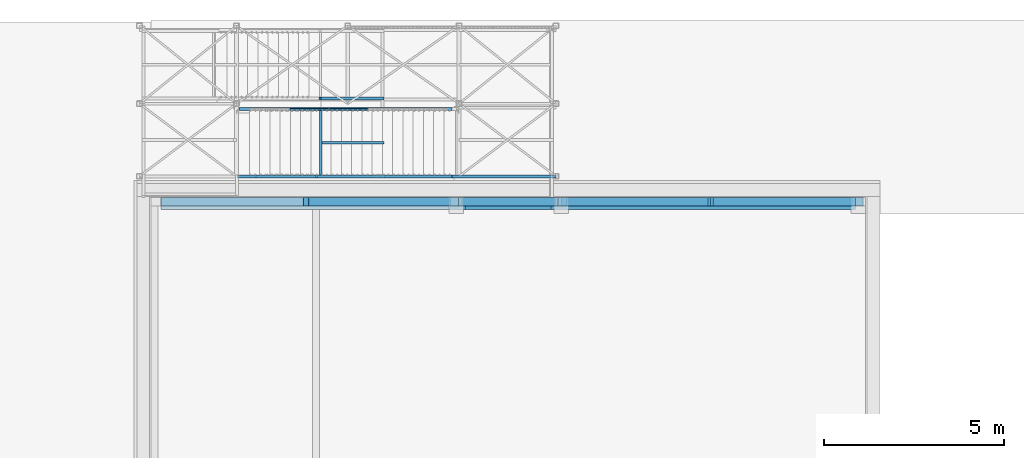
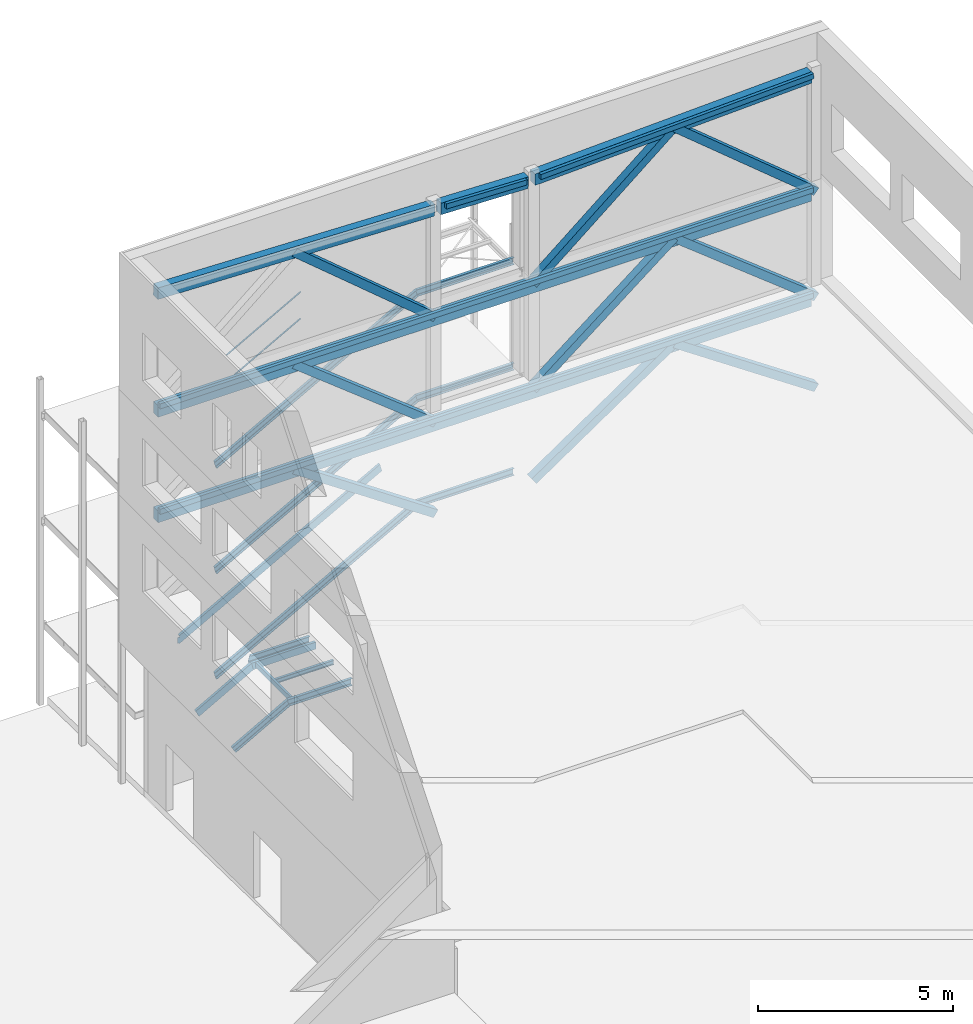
# One storey, part 31 of 78: 17 beams, 17 members, 28 elements without a shape of their own.
"""IFC2X3 building model written with IfcOpenShell, lengths in millimetres."""

from ifc_helpers import new_model, si_unit, frame, origin_with_axes, origin_2d_with_axis, place, context, subcontext, project, spatial, polyline, rectangle, i_section, u_section, outline, extrude, boolean, clip, halfspace, material, type_object, element, aggregate, save


model = new_model("IFC2X3")

# Units and contexts
model_context = context("Model", 3, precision=1e-05, world=origin_with_axes())
body_context = subcontext(model_context, "Body", "Model", "MODEL_VIEW")
ifc_project = project(units=[si_unit("LENGTHUNIT", "METRE", prefix="MILLI"), si_unit("AREAUNIT", "SQUARE_METRE"), si_unit("VOLUMEUNIT", "CUBIC_METRE"), si_unit("MASSUNIT", "GRAM", prefix="KILO"), si_unit("TIMEUNIT", "SECOND"), si_unit("PLANEANGLEUNIT", "RADIAN"), si_unit("SOLIDANGLEUNIT", "STERADIAN"), si_unit("THERMODYNAMICTEMPERATUREUNIT", "DEGREE_CELSIUS"), si_unit("LUMINOUSINTENSITYUNIT", "LUMEN")], contexts=[model_context])

# Site, building, storey
site_placement = place(None, origin_with_axes())
site = spatial("IfcSite", under=ifc_project, at=site_placement, Name="Site", CompositionType="ELEMENT")
building_placement = place(site_placement, origin_with_axes())
building = spatial("IfcBuilding", under=site, at=building_placement, Name="Undefined", CompositionType="ELEMENT")
storey_placement = place(building_placement, origin_with_axes())
storey = spatial("IfcBuildingStorey", under=building, at=storey_placement, Name="Undefined", CompositionType="ELEMENT", Elevation=0.0)

# Assembly, beam
assembly_1_placement = place(storey_placement, origin_with_axes())
assembly_1 = element("IfcElementAssembly", 1, at=assembly_1_placement, inside=storey, AssemblyPlace="NOTDEFINED", PredefinedType="RIGID_FRAME")
ifc_material_1 = material(Name="STEEL/S235JR")
beam_type_1 = type_object("IfcBeamType", Name="UPN220", PredefinedType="NOTDEFINED")
beam_1_placement = place(assembly_1_placement, frame((-2342.82498432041, 30893.0000000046, 148365.039999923), z_axis=(0.0, 0.0, 1.0), x_axis=(1.0, 0.0, 0.0)))
beam_1 = element("IfcBeam", 2, at=beam_1_placement, type_object=beam_type_1, material=ifc_material_1, Name="LIMON", ObjectType="UPN220", context=body_context, shape_type="Clipping", body=[
    clip(extrude(u_section(Depth=220.0, FlangeWidth=80.0, WebThickness=9.0, FlangeThickness=12.5, FilletRadius=12.5, EdgeRadius=6.5, FlangeSlope=0.0798299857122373, at=origin_2d_with_axis()), frame((1746.39498432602, 0.0, 0.0), z_axis=(-1.0, 0.0, 0.0), x_axis=(0.0, -1.0, 0.0)), (0.0, 0.0, 1.0), 1804.06), halfspace(frame((-5.94641824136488e-06, 2.39502696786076e-07, 109.999999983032), z_axis=(0.967635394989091, 0.0, -0.252352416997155), x_axis=(0.0, 1.0, 0.0)), True)),
])
aggregate(assembly_1, [beam_1])

assembly_2_placement = place(storey_placement, origin_with_axes())
assembly_2 = element("IfcElementAssembly", 3, at=assembly_2_placement, inside=storey, AssemblyPlace="NOTDEFINED", PredefinedType="RIGID_FRAME")
beam_2_placement = place(assembly_2_placement, frame((-596.429999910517, 30602.9999999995, 148365.040000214), z_axis=(0.0, 0.0, 1.0), x_axis=(-1.0, 0.0, 0.0)))
beam_2 = element("IfcBeam", 4, at=beam_2_placement, type_object=beam_type_1, material=ifc_material_1, Name="LIMON", ObjectType="UPN220", context=body_context, shape_type="Clipping", body=[
    clip(extrude(u_section(Depth=220.0, FlangeWidth=80.0, WebThickness=9.0, FlangeThickness=12.5, FilletRadius=12.5, EdgeRadius=6.5, FlangeSlope=0.0798299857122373, at=origin_2d_with_axis()), frame((1903.8918874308, 0.0, 0.0), z_axis=(-1.0, 0.0, 0.0), x_axis=(0.0, -1.0, 0.0)), (0.0, 0.0, 1.0), 1903.89), halfspace(frame((1903.60501531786, -40.000000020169, 110.000000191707), z_axis=(-0.967635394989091, 0.0, 0.252352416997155), x_axis=(0.0, -1.0, 0.0)), True)),
])

assembly_3_placement = place(storey_placement, origin_with_axes())
assembly_3 = element("IfcElementAssembly", 5, at=assembly_3_placement, inside=storey, AssemblyPlace="NOTDEFINED", PredefinedType="RIGID_FRAME")
beam_3_placement = place(assembly_3_placement, frame((-2500.03501564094, 28722.9999999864, 148365.040000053), z_axis=(0.0, 0.0, 1.0), x_axis=(1.0, 0.0, 0.0)))
beam_3 = element("IfcBeam", 6, at=beam_3_placement, type_object=beam_type_1, material=ifc_material_1, Name="LIMON", ObjectType="UPN220", context=body_context, shape_type="Clipping", body=[
    clip(extrude(u_section(Depth=220.0, FlangeWidth=80.0, WebThickness=9.0, FlangeThickness=12.5, FilletRadius=12.5, EdgeRadius=6.5, FlangeSlope=0.0798299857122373, at=origin_2d_with_axis()), frame((1903.60501567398, 0.0, 0.0), z_axis=(-1.0, 0.0, 0.0), x_axis=(0.0, -1.0, 0.0)), (0.0, 0.0, 1.0), 1903.89), halfspace(frame((-1.64160519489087e-06, -39.9999999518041, 109.99999989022), z_axis=(-0.967635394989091, 0.0, -0.252352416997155), x_axis=(0.0, -1.0, 0.0)), False)),
])

assembly_4_placement = place(storey_placement, origin_with_axes())
assembly_4 = element("IfcElementAssembly", 7, at=assembly_4_placement, inside=storey, AssemblyPlace="NOTDEFINED", PredefinedType="RIGID_FRAME")
beam_4_placement = place(assembly_4_placement, frame((1304.28428553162, 28722.9999999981, 153260.039999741), z_axis=(0.0, 0.0, 1.0), x_axis=(1.0, 0.0, 0.0)))
beam_4 = element("IfcBeam", 8, at=beam_4_placement, type_object=beam_type_1, material=ifc_material_1, Name="LIMON", ObjectType="UPN220", context=body_context, shape_type="Clipping", body=[
    clip(extrude(u_section(Depth=220.0, FlangeWidth=80.0, WebThickness=9.0, FlangeThickness=12.5, FilletRadius=12.5, EdgeRadius=6.5, FlangeSlope=0.0798299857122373, at=origin_2d_with_axis()), frame((2894.28571431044, 0.0, 0.0), z_axis=(-1.0, 0.0, 0.0), x_axis=(0.0, -1.0, 0.0)), (0.0, 0.0, 1.0), 2894.57), halfspace(frame((-1.64160519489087e-06, -39.9999999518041, 109.99999989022), z_axis=(-0.968308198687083, 0.0, -0.249758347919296), x_axis=(0.0, -1.0, 0.0)), False)),
])

assembly_5_placement = place(storey_placement, origin_with_axes())
assembly_5 = element("IfcElementAssembly", 9, at=assembly_5_placement, inside=storey, AssemblyPlace="NOTDEFINED", PredefinedType="RIGID_FRAME")
beam_5_placement = place(assembly_5_placement, frame((1304.28428542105, 28722.999999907, 156560.03999956), z_axis=(0.0, 0.0, 1.0), x_axis=(1.0, 0.0, 0.0)))
beam_5 = element("IfcBeam", 10, at=beam_5_placement, type_object=beam_type_1, material=ifc_material_1, Name="LIMON", ObjectType="UPN220", context=body_context, shape_type="Clipping", body=[
    clip(extrude(u_section(Depth=220.0, FlangeWidth=80.0, WebThickness=9.0, FlangeThickness=12.5, FilletRadius=12.5, EdgeRadius=6.5, FlangeSlope=0.0798299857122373, at=origin_2d_with_axis()), frame((2894.28571431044, 0.0, 0.0), z_axis=(-1.0, 0.0, 0.0), x_axis=(0.0, -1.0, 0.0)), (0.0, 0.0, 1.0), 2894.57), halfspace(frame((-1.64160519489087e-06, -39.9999999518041, 109.99999989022), z_axis=(-0.968308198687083, 0.0, -0.249758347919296), x_axis=(0.0, -1.0, 0.0)), False)),
])

assembly_6_placement = place(storey_placement, origin_with_axes())
assembly_6 = element("IfcElementAssembly", 11, at=assembly_6_placement, inside=storey, AssemblyPlace="NOTDEFINED", PredefinedType="RIGID_FRAME")
beam_6_placement = place(assembly_6_placement, frame((1304.28428553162, 28722.9999999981, 159860.039999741), z_axis=(0.0, 0.0, 1.0), x_axis=(1.0, 0.0, 0.0)))
beam_6 = element("IfcBeam", 12, at=beam_6_placement, type_object=beam_type_1, material=ifc_material_1, Name="LIMON", ObjectType="UPN220", context=body_context, shape_type="Clipping", body=[
    clip(extrude(u_section(Depth=220.0, FlangeWidth=80.0, WebThickness=9.0, FlangeThickness=12.5, FilletRadius=12.5, EdgeRadius=6.5, FlangeSlope=0.0798299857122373, at=origin_2d_with_axis()), frame((2894.28571431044, 0.0, 0.0), z_axis=(-1.0, 0.0, 0.0), x_axis=(0.0, -1.0, 0.0)), (0.0, 0.0, 1.0), 2894.57), halfspace(frame((-1.64160519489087e-06, -39.9999999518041, 109.99999989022), z_axis=(-0.968308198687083, 0.0, -0.249758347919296), x_axis=(0.0, -1.0, 0.0)), False)),
])

assembly_7_placement = place(storey_placement, origin_with_axes())
assembly_7 = element("IfcElementAssembly", 13, at=assembly_7_placement, inside=storey, Name="POUTRE", AssemblyPlace="NOTDEFINED", PredefinedType="RIGID_FRAME")
ifc_material_2 = material(Name="STEEL/S275JR")
beam_type_2 = type_object("IfcBeamType", Name="IPE140", PredefinedType="NOTDEFINED")
beam_7_placement = place(assembly_7_placement, frame((-2336.4299998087, 29663.0, 148405.039999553), z_axis=(0.0, 0.0, -1.0), x_axis=(1.0, 0.0, 0.0)))
beam_7 = element("IfcBeam", 14, at=beam_7_placement, type_object=beam_type_2, material=ifc_material_2, Name="POUTRE", ObjectType="IPE140", context=body_context, shape_type="SweptSolid", body=[
    extrude(i_section(OverallWidth=73.0, OverallDepth=140.0, WebThickness=4.699999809, FlangeThickness=6.900000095, FilletRadius=7.0, at=origin_2d_with_axis()), frame((1739.9999999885, 0.0, 0.0), z_axis=(-1.0, 0.0, 0.0), x_axis=(0.0, -1.0, 0.0)), (0.0, 0.0, 1.0), 1740.0),
])
aggregate(assembly_7, [beam_7])

# Assembly, members
assembly_8_placement = place(storey_placement, origin_with_axes())
assembly_8 = element("IfcElementAssembly", 15, at=assembly_8_placement, inside=storey, Name="MAIN_COURANTE", AssemblyPlace="NOTDEFINED", PredefinedType="RIGID_FRAME")
member_type_1 = type_object("IfcMemberType", Name="PL10*50", PredefinedType="NOTDEFINED")
member_1_placement = place(assembly_8_placement, frame((-3227.0057155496, 30592.9999997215, 157528.743340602), z_axis=(0.0, -1.0, 0.0), x_axis=(0.875241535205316, 0.0, 0.483686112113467)))
solid_1 = boolean("DIFFERENCE", boolean("DIFFERENCE", extrude(rectangle(XDim=20.0, YDim=50.0, at=origin_2d_with_axis()), frame((404.923975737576, 732.719574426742, -3.63797880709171e-12), z_axis=(-0.483686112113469, -0.875241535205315, 0.0), x_axis=(0.875241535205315, -0.48368611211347, 0.0)), (0.0, 0.0, 1.0), 900.0), halfspace(frame((402.160818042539, 722.719574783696, -3.63797880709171e-12), z_axis=(0.0, 1.0, 0.0), x_axis=(0.0, 0.0, -1.0)), False)), halfspace(frame((-25.9724726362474, -46.997807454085, -25.0000000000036), z_axis=(0.0, 1.0, 0.0), x_axis=(1.0, 0.0, 0.0)), True))
solid_2 = boolean("DIFFERENCE", boolean("DIFFERENCE", extrude(rectangle(XDim=20.0, YDim=50.0, at=origin_2d_with_axis()), frame((1661.71990663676, 732.719574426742, -3.63797880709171e-12), z_axis=(-0.483686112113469, -0.875241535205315, 0.0), x_axis=(0.875241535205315, -0.48368611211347, 0.0)), (0.0, 0.0, 1.0), 900.0), halfspace(frame((1658.95674886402, 722.719574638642, -3.63797880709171e-12), z_axis=(0.0, 1.0, 0.0), x_axis=(0.0, 0.0, -1.0)), False)), halfspace(frame((1230.8234582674, -46.997807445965, -25.0000000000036), z_axis=(0.0, 1.0, 0.0), x_axis=(1.0, 0.0, 0.0)), True))
solid_3 = boolean("DIFFERENCE", boolean("DIFFERENCE", extrude(rectangle(XDim=20.0, YDim=50.0, at=origin_2d_with_axis()), frame((2918.51583753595, 732.719574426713, -3.63797880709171e-12), z_axis=(-0.483686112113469, -0.875241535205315, 0.0), x_axis=(0.875241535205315, -0.48368611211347, 0.0)), (0.0, 0.0, 1.0), 900.0), halfspace(frame((2915.75267970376, 722.719574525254, -3.63797880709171e-12), z_axis=(0.0, 1.0, 0.0), x_axis=(0.0, 0.0, -1.0)), False)), halfspace(frame((2487.61938917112, -46.9978074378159, -25.0000000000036), z_axis=(0.0, 1.0, 0.0), x_axis=(1.0, 0.0, 0.0)), True))
member_1 = element("IfcMember", 16, at=member_1_placement, type_object=member_type_1, material=ifc_material_1, Name="LISSE", ObjectType="PL10*50", context=body_context, shape_type="CSG", body=[
    boolean("DIFFERENCE", boolean("DIFFERENCE", boolean("DIFFERENCE", extrude(rectangle(XDim=10.0, YDim=50.0, at=origin_2d_with_axis()), frame((2513.59186172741, 0.0, 0.0), z_axis=(-1.0, 0.0, 0.0), x_axis=(0.0, -1.0, 0.0)), (0.0, 0.0, 1.0), 2513.59), solid_1), solid_2), solid_3),
])
member_2_placement = place(assembly_8_placement, frame((-1027.00571562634, 30592.9999997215, 159575.982815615), z_axis=(0.0, -1.0, 0.0), x_axis=(-0.875241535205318, 0.0, -0.483686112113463)))
member_2 = element("IfcMember", 17, at=member_2_placement, type_object=member_type_1, material=ifc_material_1, Name="MAIN_COURANTE", ObjectType="PL10*50", context=body_context, shape_type="SweptSolid", body=[
    extrude(rectangle(XDim=10.0, YDim=50.0, at=origin_2d_with_axis()), frame((2513.59186172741, 0.0, 0.0), z_axis=(-1.0, 0.0, 0.0), x_axis=(0.0, -1.0, 0.0)), (0.0, 0.0, 1.0), 2513.59),
])
aggregate(assembly_8, [member_1, member_2])

# Assembly, beam
assembly_9_placement = place(storey_placement, origin_with_axes())
assembly_9 = element("IfcElementAssembly", 18, at=assembly_9_placement, inside=storey, Name="POUTRE", AssemblyPlace="NOTDEFINED", PredefinedType="NOTDEFINED")
ifc_material_3 = material(Name="TIMBER/CHENE")
beam_type_3 = type_object("IfcBeamType", Name="160*100", PredefinedType="NOTDEFINED")
beam_8_placement = place(assembly_9_placement, frame((-6803.43338012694, 27845.0001586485, 156400.039463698), z_axis=(0.0, 0.0, 1.0), x_axis=(1.0, 0.0, 0.0)))
beam_8 = element("IfcBeam", 19, at=beam_8_placement, type_object=beam_type_3, material=ifc_material_3, Name="POUTRE", ObjectType="160*100", context=body_context, shape_type="SweptSolid", body=[
    extrude(rectangle(XDim=100.0, YDim=160.0, at=origin_2d_with_axis()), frame((19350.0022888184, 0.0, 0.0), z_axis=(-1.0, 0.0, 0.0), x_axis=(0.0, -1.0, 0.0)), (0.0, 0.0, 1.0), 19350.0),
])
aggregate(assembly_9, [beam_8])

assembly_10_placement = place(storey_placement, origin_with_axes())
assembly_10 = element("IfcElementAssembly", 20, at=assembly_10_placement, inside=storey, Name="POUTRE", AssemblyPlace="NOTDEFINED", PredefinedType="NOTDEFINED")
beam_9_placement = place(assembly_10_placement, frame((-6803.43338012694, 27845.0001586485, 159700.039654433), z_axis=(0.0, 0.0, 1.0), x_axis=(1.0, 0.0, 0.0)))
beam_9 = element("IfcBeam", 21, at=beam_9_placement, type_object=beam_type_3, material=ifc_material_3, Name="POUTRE", ObjectType="160*100", context=body_context, shape_type="SweptSolid", body=[
    extrude(rectangle(XDim=100.0, YDim=160.0, at=origin_2d_with_axis()), frame((19350.0022888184, 0.0, 0.0), z_axis=(-1.0, 0.0, 0.0), x_axis=(0.0, -1.0, 0.0)), (0.0, 0.0, 1.0), 19350.0),
])
aggregate(assembly_10, [beam_9])

assembly_11_placement = place(storey_placement, origin_with_axes())
assembly_11 = element("IfcElementAssembly", 22, at=assembly_11_placement, inside=storey, Name="POUTRE", AssemblyPlace="NOTDEFINED", PredefinedType="NOTDEFINED")
beam_10_placement = place(assembly_11_placement, frame((4468.27791675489, 27845.0000762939, 162932.08202534), z_axis=(-0.041387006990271, 0.0, 0.999143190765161), x_axis=(0.999143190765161, 0.0, 0.041387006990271)))
beam_10 = element("IfcBeam", 23, at=beam_10_placement, type_object=beam_type_3, material=ifc_material_3, Name="POUTRE", ObjectType="160*100", context=body_context, shape_type="SweptSolid", body=[
    extrude(rectangle(XDim=100.0, YDim=160.0, at=origin_2d_with_axis()), frame((8088.45425760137, -3.63797880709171e-12, 0.0), z_axis=(-1.0, 0.0, 0.0), x_axis=(0.0, -1.0, 0.0)), (0.0, 0.0, 1.0), 8088.45),
])
aggregate(assembly_11, [beam_10])

assembly_12_placement = place(storey_placement, origin_with_axes())
assembly_12 = element("IfcElementAssembly", 24, at=assembly_12_placement, inside=storey, Name="POUTRE", AssemblyPlace="NOTDEFINED", PredefinedType="NOTDEFINED")
beam_11_placement = place(assembly_12_placement, frame((1675.23115953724, 27844.9999939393, 162991.187965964), z_axis=(0.0327879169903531, 0.0, 0.99946233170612), x_axis=(0.99946233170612, 0.0, -0.0327879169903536)))
beam_11 = element("IfcBeam", 25, at=beam_11_placement, type_object=beam_type_3, material=ifc_material_3, Name="POUTRE", ObjectType="160*100", context=body_context, shape_type="SweptSolid", body=[
    extrude(rectangle(XDim=100.0, YDim=160.0, at=origin_2d_with_axis()), frame((2389.9990220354, 0.0, -1.65839496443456e-14), z_axis=(-1.0, 0.0, 0.0), x_axis=(0.0, -1.0, 0.0)), (0.0, 0.0, 1.0), 2390.0),
])
aggregate(assembly_12, [beam_11])

assembly_13_placement = place(storey_placement, origin_with_axes())
assembly_13 = element("IfcElementAssembly", 26, at=assembly_13_placement, inside=storey, Name="POUTRE", AssemblyPlace="NOTDEFINED", PredefinedType="NOTDEFINED")
beam_type_4 = type_object("IfcBeamType", Name="360*240", PredefinedType="NOTDEFINED")
beam_12_placement = place(assembly_13_placement, frame((-6803.43338012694, 28014.9986327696, 156180.039768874), z_axis=(0.0, 0.0, 1.0), x_axis=(1.0, 0.0, 0.0)))
beam_12 = element("IfcBeam", 27, at=beam_12_placement, type_object=beam_type_4, material=ifc_material_3, Name="POUTRE", ObjectType="360*240", context=body_context, shape_type="SweptSolid", body=[
    extrude(rectangle(XDim=240.0, YDim=360.0, at=origin_2d_with_axis()), frame((19350.0022888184, 0.0, 0.0), z_axis=(-1.0, 0.0, 0.0), x_axis=(0.0, -1.0, 0.0)), (0.0, 0.0, 1.0), 19350.0),
])
aggregate(assembly_13, [beam_12])

assembly_14_placement = place(storey_placement, origin_with_axes())
assembly_14 = element("IfcElementAssembly", 28, at=assembly_14_placement, inside=storey, Name="POUTRE", AssemblyPlace="NOTDEFINED", PredefinedType="NOTDEFINED")
beam_13_placement = place(assembly_14_placement, frame((-6803.43338012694, 28014.9986327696, 159480.039959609), z_axis=(0.0, 0.0, 1.0), x_axis=(1.0, 0.0, 0.0)))
beam_13 = element("IfcBeam", 29, at=beam_13_placement, type_object=beam_type_4, material=ifc_material_3, Name="POUTRE", ObjectType="360*240", context=body_context, shape_type="SweptSolid", body=[
    extrude(rectangle(XDim=240.0, YDim=360.0, at=origin_2d_with_axis()), frame((19350.0022888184, 0.0, 0.0), z_axis=(-1.0, 0.0, 0.0), x_axis=(0.0, -1.0, 0.0)), (0.0, 0.0, 1.0), 19350.0),
])
aggregate(assembly_14, [beam_13])

assembly_15_placement = place(storey_placement, origin_with_axes())
assembly_15 = element("IfcElementAssembly", 30, at=assembly_15_placement, inside=storey, Name="POUTRE", AssemblyPlace="NOTDEFINED", PredefinedType="NOTDEFINED")
beam_14_placement = place(assembly_15_placement, frame((4353.9364589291, 28014.9986327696, 162830.989071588), z_axis=(-0.0409325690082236, 0.0, 0.999161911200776), x_axis=(0.999161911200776, 0.0, 0.0409325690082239)))
beam_14 = element("IfcBeam", 31, at=beam_14_placement, type_object=beam_type_4, material=ifc_material_3, Name="POUTRE", ObjectType="360*240", context=body_context, shape_type="SweptSolid", body=[
    extrude(rectangle(XDim=240.0, YDim=360.0, at=origin_2d_with_axis()), frame((8199.99632026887, -3.63797880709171e-12, 5.68989044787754e-14), z_axis=(-1.0, 0.0, 0.0), x_axis=(0.0, -1.0, 0.0)), (0.0, 0.0, 1.0), 8200.0),
])
aggregate(assembly_15, [beam_14])

assembly_16_placement = place(storey_placement, origin_with_axes())
assembly_16 = element("IfcElementAssembly", 32, at=assembly_16_placement, inside=storey, Name="POUTRE", AssemblyPlace="NOTDEFINED", PredefinedType="NOTDEFINED")
beam_15_placement = place(assembly_16_placement, frame((1567.89962135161, 28014.998550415, 162890.133948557), z_axis=(0.0309780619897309, 0.0, 0.999520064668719), x_axis=(0.999520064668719, 0.0, -0.0309780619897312)))
beam_15 = element("IfcBeam", 33, at=beam_15_placement, type_object=beam_type_4, material=ifc_material_3, Name="POUTRE", ObjectType="360*240", context=body_context, shape_type="SweptSolid", body=[
    extrude(rectangle(XDim=240.0, YDim=360.0, at=origin_2d_with_axis()), frame((2589.99702645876, -3.63797880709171e-12, -8.98585728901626e-15), z_axis=(-1.0, 0.0, 0.0), x_axis=(0.0, -1.0, 0.0)), (0.0, 0.0, 1.0), 2590.0),
])
aggregate(assembly_16, [beam_15])

assembly_17_placement = place(storey_placement, origin_with_axes())
assembly_17 = element("IfcElementAssembly", 34, at=assembly_17_placement, inside=storey, Name="POUTRE", AssemblyPlace="NOTDEFINED", PredefinedType="NOTDEFINED")
beam_16_placement = place(assembly_17_placement, frame((-6809.07225390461, 28014.9986327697, 163169.802462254), z_axis=(0.030979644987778, 0.0, 0.999520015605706), x_axis=(0.999520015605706, 0.0, -0.0309796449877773)))
beam_16 = element("IfcBeam", 35, at=beam_16_placement, type_object=beam_type_4, material=ifc_material_3, Name="POUTRE", ObjectType="360*240", context=body_context, shape_type="SweptSolid", body=[
    extrude(rectangle(XDim=240.0, YDim=360.0, at=origin_2d_with_axis()), frame((8199.99986745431, -3.63797880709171e-12, 0.0), z_axis=(-1.0, 0.0, 0.0), x_axis=(0.0, -1.0, 0.0)), (0.0, 0.0, 1.0), 8200.0),
])
aggregate(assembly_17, [beam_16])

# Assembly, member
assembly_18_placement = place(storey_placement, origin_with_axes())
assembly_18 = element("IfcElementAssembly", 36, at=assembly_18_placement, inside=storey, Name="POUTRE", AssemblyPlace="NOTDEFINED", PredefinedType="NOTDEFINED")
member_type_2 = type_object("IfcMemberType", Name="240*240", PredefinedType="NOTDEFINED")
member_3_placement = place(assembly_18_placement, frame((12686.5665316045, 28014.998550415, 153400.039641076), z_axis=(0.561985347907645, 0.0, 0.827147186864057), x_axis=(-0.82714718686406, 0.0, 0.561985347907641)))
member_3 = element("IfcMember", 37, at=member_3_placement, type_object=member_type_2, material=ifc_material_3, Name="POUTRE", ObjectType="240*240", context=body_context, shape_type="SweptSolid", body=[
    extrude(rectangle(XDim=240.0, YDim=240.0, at=origin_2d_with_axis()), frame((5053.51376432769, 3.63797880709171e-12, -5.61052733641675e-13), z_axis=(-1.0, 0.0, 0.0), x_axis=(0.0, -1.0, 0.0)), (0.0, 0.0, 1.0), 5053.51),
])
aggregate(assembly_18, [member_3])

assembly_19_placement = place(storey_placement, origin_with_axes())
assembly_19 = element("IfcElementAssembly", 38, at=assembly_19_placement, inside=storey, Name="POUTRE", AssemblyPlace="NOTDEFINED", PredefinedType="NOTDEFINED")
member_4_placement = place(assembly_19_placement, frame((4326.56233444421, 28014.9985504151, 153400.039636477), z_axis=(-0.561985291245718, 0.0, 0.827147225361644), x_axis=(0.827147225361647, 0.0, 0.561985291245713)))
member_4 = element("IfcMember", 39, at=member_4_placement, type_object=member_type_2, material=ifc_material_3, Name="POUTRE", ObjectType="240*240", context=body_context, shape_type="SweptSolid", body=[
    extrude(rectangle(XDim=240.0, YDim=240.0, at=origin_2d_with_axis()), frame((5053.51426908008, 0.0, 2.80526394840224e-13), z_axis=(-1.0, 0.0, 0.0), x_axis=(0.0, -1.0, 0.0)), (0.0, 0.0, 1.0), 5053.51),
])
aggregate(assembly_19, [member_4])

assembly_20_placement = place(storey_placement, origin_with_axes())
assembly_20 = element("IfcElementAssembly", 40, at=assembly_20_placement, inside=storey, Name="POUTRE", AssemblyPlace="NOTDEFINED", PredefinedType="NOTDEFINED")
member_5_placement = place(assembly_20_placement, frame((1416.5614986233, 28014.998550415, 153400.040433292), z_axis=(0.561985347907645, 0.0, 0.827147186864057), x_axis=(-0.82714718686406, 0.0, 0.561985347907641)))
member_5 = element("IfcMember", 41, at=member_5_placement, type_object=member_type_2, material=ifc_material_3, Name="POUTRE", ObjectType="240*240", context=body_context, shape_type="SweptSolid", body=[
    extrude(rectangle(XDim=240.0, YDim=240.0, at=origin_2d_with_axis()), frame((5053.51376432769, 3.63797880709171e-12, -5.61052733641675e-13), z_axis=(-1.0, 0.0, 0.0), x_axis=(0.0, -1.0, 0.0)), (0.0, 0.0, 1.0), 5053.51),
])
aggregate(assembly_20, [member_5])

assembly_21_placement = place(storey_placement, origin_with_axes())
assembly_21 = element("IfcElementAssembly", 42, at=assembly_21_placement, inside=storey, Name="POUTRE", AssemblyPlace="NOTDEFINED", PredefinedType="NOTDEFINED")
member_6_placement = place(assembly_21_placement, frame((12686.5675849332, 28014.998550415, 156240.041801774), z_axis=(0.619644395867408, 0.0, 0.784882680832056), x_axis=(-0.784882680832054, 0.0, 0.619644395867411)))
member_6 = element("IfcMember", 43, at=member_6_placement, type_object=member_type_2, material=ifc_material_3, Name="POUTRE", ObjectType="240*240", context=body_context, shape_type="SweptSolid", body=[
    extrude(rectangle(XDim=240.0, YDim=240.0, at=origin_2d_with_axis()), frame((5325.63629998, 3.63797880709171e-12, 0.0), z_axis=(-1.0, 0.0, 0.0), x_axis=(0.0, -1.0, 0.0)), (0.0, 0.0, 1.0), 5325.64),
])
aggregate(assembly_21, [member_6])

assembly_22_placement = place(storey_placement, origin_with_axes())
assembly_22 = element("IfcElementAssembly", 44, at=assembly_22_placement, inside=storey, Name="POUTRE", AssemblyPlace="NOTDEFINED", PredefinedType="NOTDEFINED")
member_7_placement = place(assembly_22_placement, frame((4326.57166906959, 28014.998550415, 156240.041882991), z_axis=(-0.619645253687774, 0.0, 0.7848820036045), x_axis=(0.784882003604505, 0.0, 0.619645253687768)))
member_7 = element("IfcMember", 45, at=member_7_placement, type_object=member_type_2, material=ifc_material_3, Name="POUTRE", ObjectType="240*240", context=body_context, shape_type="SweptSolid", body=[
    extrude(rectangle(XDim=240.0, YDim=240.0, at=origin_2d_with_axis()), frame((5325.62893023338, 0.0, 0.0), z_axis=(-1.0, 0.0, 0.0), x_axis=(0.0, -1.0, 0.0)), (0.0, 0.0, 1.0), 5325.63),
])
aggregate(assembly_22, [member_7])

assembly_23_placement = place(storey_placement, origin_with_axes())
assembly_23 = element("IfcElementAssembly", 46, at=assembly_23_placement, inside=storey, Name="POUTRE", AssemblyPlace="NOTDEFINED", PredefinedType="NOTDEFINED")
member_8_placement = place(assembly_23_placement, frame((1416.56255195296, 28014.998550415, 156240.042593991), z_axis=(0.619644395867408, 0.0, 0.784882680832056), x_axis=(-0.784882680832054, 0.0, 0.619644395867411)))
member_8 = element("IfcMember", 47, at=member_8_placement, type_object=member_type_2, material=ifc_material_3, Name="POUTRE", ObjectType="240*240", context=body_context, shape_type="SweptSolid", body=[
    extrude(rectangle(XDim=240.0, YDim=240.0, at=origin_2d_with_axis()), frame((5325.63629998, 3.63797880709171e-12, 0.0), z_axis=(-1.0, 0.0, 0.0), x_axis=(0.0, -1.0, 0.0)), (0.0, 0.0, 1.0), 5325.64),
])
aggregate(assembly_23, [member_8])

assembly_24_placement = place(storey_placement, origin_with_axes())
assembly_24 = element("IfcElementAssembly", 48, at=assembly_24_placement, inside=storey, Name="POUTRE", AssemblyPlace="NOTDEFINED", PredefinedType="NOTDEFINED")
member_9_placement = place(assembly_24_placement, frame((12686.5666765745, 28014.9986327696, 159540.039744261), z_axis=(0.63776023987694, 0.0, 0.770234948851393), x_axis=(-0.770234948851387, 0.0, 0.637760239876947)))
member_9 = element("IfcMember", 49, at=member_9_placement, type_object=member_type_2, material=ifc_material_3, Name="POUTRE", ObjectType="240*240", context=body_context, shape_type="SweptSolid", body=[
    extrude(rectangle(XDim=240.0, YDim=240.0, at=origin_2d_with_axis()), frame((5426.91512437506, 3.63797880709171e-12, 0.0), z_axis=(-1.0, 0.0, 0.0), x_axis=(0.0, -1.0, 0.0)), (0.0, 0.0, 1.0), 5426.92),
])
aggregate(assembly_24, [member_9])

assembly_25_placement = place(storey_placement, origin_with_axes())
assembly_25 = element("IfcElementAssembly", 50, at=assembly_25_placement, inside=storey, Name="POUTRE", AssemblyPlace="NOTDEFINED", PredefinedType="NOTDEFINED")
member_10_placement = place(assembly_25_placement, frame((4326.56845357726, 28014.9986327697, 159540.039738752), z_axis=(-0.637760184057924, 0.0, 0.770234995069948), x_axis=(0.770234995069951, 0.0, 0.63776018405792)))
member_10 = element("IfcMember", 51, at=member_10_placement, type_object=member_type_2, material=ifc_material_3, Name="POUTRE", ObjectType="240*240", context=body_context, shape_type="SweptSolid", body=[
    extrude(rectangle(XDim=240.0, YDim=240.0, at=origin_2d_with_axis()), frame((5426.9155944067, 0.0, 6.02508664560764e-13), z_axis=(-1.0, 0.0, 0.0), x_axis=(0.0, -1.0, 0.0)), (0.0, 0.0, 1.0), 5426.92),
])
aggregate(assembly_25, [member_10])

assembly_26_placement = place(storey_placement, origin_with_axes())
assembly_26 = element("IfcElementAssembly", 52, at=assembly_26_placement, inside=storey, Name="POUTRE", AssemblyPlace="NOTDEFINED", PredefinedType="NOTDEFINED")
member_11_placement = place(assembly_26_placement, frame((1416.56794186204, 28014.9986327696, 159540.040197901), z_axis=(0.642457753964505, 0.0, 0.766321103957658), x_axis=(-0.766321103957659, 0.0, 0.642457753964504)))
member_11 = element("IfcMember", 53, at=member_11_placement, type_object=member_type_2, material=ifc_material_3, Name="POUTRE", ObjectType="240*240", context=body_context, shape_type="SweptSolid", body=[
    extrude(rectangle(XDim=240.0, YDim=240.0, at=origin_2d_with_axis()), frame((5454.63210290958, 3.63797880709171e-12, 0.0), z_axis=(-1.0, 0.0, 0.0), x_axis=(0.0, -1.0, 0.0)), (0.0, 0.0, 1.0), 5454.63),
])
aggregate(assembly_26, [member_11])

# Member
member_type_3 = type_object("IfcMemberType", Name="UPN220", PredefinedType="NOTDEFINED")
member_12_placement = place(assembly_2_placement, frame((-2446.31428701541, 30603.0000000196, 148379.049983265), z_axis=(-0.488370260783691, 0.0, 0.8726365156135), x_axis=(-0.8726365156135, 0.0, -0.488370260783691)))
member_12 = element("IfcMember", 54, at=member_12_placement, type_object=member_type_3, material=ifc_material_1, Name="LIMON", ObjectType="UPN220", context=body_context, shape_type="Clipping", body=[
    clip(extrude(u_section(Depth=220.0, FlangeWidth=80.0, WebThickness=9.0, FlangeThickness=12.5, FilletRadius=12.5, EdgeRadius=6.5, FlangeSlope=0.0798299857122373, at=origin_2d_with_axis()), frame((1898.1499793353, 3.63797880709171e-12, 0.0), z_axis=(-1.0, 0.0, 0.0), x_axis=(0.0, -1.0, 0.0)), (0.0, 0.0, 1.0), 2043.7), halfspace(frame((-1.64160519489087e-06, -39.9999999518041, 109.99999989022), z_axis=(-0.967635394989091, 0.0, -0.252352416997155), x_axis=(0.0, -1.0, 0.0)), False)),
])

aggregate(assembly_2, [beam_2, member_12])

member_13_placement = place(assembly_3_placement, frame((-4102.709271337, 28722.9999999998, 147452.049983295), z_axis=(-0.488370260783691, 0.0, 0.8726365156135), x_axis=(0.872636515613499, 0.0, 0.488370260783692)))
member_13 = element("IfcMember", 55, at=member_13_placement, type_object=member_type_3, material=ifc_material_1, Name="LIMON", ObjectType="UPN220", context=body_context, shape_type="Clipping", body=[
    clip(extrude(u_section(Depth=220.0, FlangeWidth=80.0, WebThickness=9.0, FlangeThickness=12.5, FilletRadius=12.5, EdgeRadius=6.5, FlangeSlope=0.0798299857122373, at=origin_2d_with_axis()), frame((2043.69945832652, 0.0, 0.0), z_axis=(-1.0, 0.0, 0.0), x_axis=(0.0, -1.0, 0.0)), (0.0, 0.0, 1.0), 2043.7), halfspace(frame((1898.14997862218, -40.0, 110.000000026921), z_axis=(-0.967635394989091, 0.0, 0.252352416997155), x_axis=(0.0, -1.0, 0.0)), True)),
])

aggregate(assembly_3, [beam_3, member_13])

# Assembly, member
assembly_27_placement = place(storey_placement, origin_with_axes())
assembly_27 = element("IfcElementAssembly", 56, at=assembly_27_placement, inside=storey, AssemblyPlace="NOTDEFINED", PredefinedType="RIGID_FRAME")
member_14_placement = place(assembly_27_placement, frame((1357.4897582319, 30602.99999982, 153273.763431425), z_axis=(-0.48368611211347, 0.0, 0.875241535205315), x_axis=(-0.875241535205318, 0.0, -0.483686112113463)))
member_14 = element("IfcMember", 57, at=member_14_placement, type_object=member_type_3, material=ifc_material_1, Name="LIMON", ObjectType="UPN220", context=body_context, shape_type="CSG", body=[
    boolean("DIFFERENCE", boolean("DIFFERENCE", boolean("DIFFERENCE", boolean("DIFFERENCE", extrude(u_section(Depth=220.0, FlangeWidth=80.0, WebThickness=9.0, FlangeThickness=12.5, FilletRadius=12.5, EdgeRadius=6.5, FlangeSlope=0.0798299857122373, at=origin_2d_with_axis()), frame((7032.45614258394, 0.0, 3.90379736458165e-13), z_axis=(-1.0, 0.0, 0.0), x_axis=(0.0, -1.0, 0.0)), (0.0, 0.0, 1.0), 7128.94), extrude(outline(polyline([(0.0, 0.0), (66.9000000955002, 0.0), (66.9000000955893, 59.5368424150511), (1.2475846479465, 23.2552443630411), (0.0, 0.0)])), frame((6864.3153591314, -50.0000000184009, 99.0019028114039), z_axis=(0.0, 1.0, 0.0), x_axis=(-0.875241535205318, 0.0, -0.483686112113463)), (0.0, 0.0, 1.0), 100.0)), extrude(outline(polyline([(0.0, 0.0), (66.9000000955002, 0.0), (66.9000000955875, 31.4223441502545), (1.2475846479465, 67.7039422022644), (0.0, 0.0)])), frame((6951.57233339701, 49.99999998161, -58.8916694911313), z_axis=(0.0, -1.0, 0.0), x_axis=(-0.875241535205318, 0.0, -0.483686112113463)), (0.0, 0.0, 1.0), 100.0)), halfspace(frame((5196.61631635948, 1.20417098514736e-09, 3096.06845890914), z_axis=(0.875241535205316, 0.0, 0.483686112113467), x_axis=(0.0, 1.0, 0.0)), False)), halfspace(frame((-1.64160519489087e-06, -39.9999999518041, 109.99999989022), z_axis=(-0.968308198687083, 0.0, -0.249758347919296), x_axis=(0.0, -1.0, 0.0)), False)),
])
aggregate(assembly_27, [member_14])

# Member
member_15_placement = place(assembly_4_placement, frame((-4613.93881342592, 28722.9999999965, 149973.763431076), z_axis=(-0.48368611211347, 0.0, 0.875241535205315), x_axis=(0.875241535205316, 0.0, 0.483686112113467)))
member_15 = element("IfcMember", 58, at=member_15_placement, type_object=member_type_3, material=ifc_material_1, Name="LIMON", ObjectType="UPN220", context=body_context, shape_type="Clipping", body=[
    clip(clip(extrude(u_section(Depth=220.0, FlangeWidth=80.0, WebThickness=9.0, FlangeThickness=12.5, FilletRadius=12.5, EdgeRadius=6.5, FlangeSlope=0.0798299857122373, at=origin_2d_with_axis()), frame((6951.87133882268, -3.63797880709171e-12, 3.85906381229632e-13), z_axis=(-1.0, 0.0, 0.0), x_axis=(0.0, -1.0, 0.0)), (0.0, 0.0, 1.0), 7137.88), halfspace(frame((6822.60647429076, -39.9999999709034, 109.999999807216), z_axis=(-0.968308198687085, 0.0, 0.249758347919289), x_axis=(0.0, -1.0, 0.0)), True)), halfspace(frame((-5.94641824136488e-06, 2.39502696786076e-07, 109.999999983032), z_axis=(-0.968308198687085, 0.0, 0.249758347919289), x_axis=(0.0, -1.0, 0.0)), False)),
])

aggregate(assembly_4, [beam_4, member_15])

member_16_placement = place(assembly_5_placement, frame((-4613.93881342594, 28722.9999999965, 153273.763431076), z_axis=(-0.48368611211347, 0.0, 0.875241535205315), x_axis=(0.875241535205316, 0.0, 0.483686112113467)))
member_16 = element("IfcMember", 59, at=member_16_placement, type_object=member_type_3, material=ifc_material_1, Name="LIMON", ObjectType="UPN220", context=body_context, shape_type="Clipping", body=[
    clip(clip(extrude(u_section(Depth=220.0, FlangeWidth=80.0, WebThickness=9.0, FlangeThickness=12.5, FilletRadius=12.5, EdgeRadius=6.5, FlangeSlope=0.0798299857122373, at=origin_2d_with_axis()), frame((6951.87133882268, -3.63797880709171e-12, 3.85906381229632e-13), z_axis=(-1.0, 0.0, 0.0), x_axis=(0.0, -1.0, 0.0)), (0.0, 0.0, 1.0), 7137.88), halfspace(frame((6822.60647429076, -39.9999999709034, 109.999999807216), z_axis=(-0.968308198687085, 0.0, 0.249758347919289), x_axis=(0.0, -1.0, 0.0)), True)), halfspace(frame((-5.94641824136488e-06, 2.39502696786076e-07, 109.999999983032), z_axis=(-0.968308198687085, 0.0, 0.249758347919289), x_axis=(0.0, -1.0, 0.0)), False)),
])

aggregate(assembly_5, [beam_5, member_16])

member_17_placement = place(assembly_6_placement, frame((-4613.93881342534, 28722.9999999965, 156573.763431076), z_axis=(-0.48368611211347, 0.0, 0.875241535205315), x_axis=(0.875241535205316, 0.0, 0.483686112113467)))
member_17 = element("IfcMember", 60, at=member_17_placement, type_object=member_type_3, material=ifc_material_1, Name="LIMON", ObjectType="UPN220", context=body_context, shape_type="Clipping", body=[
    clip(clip(extrude(u_section(Depth=220.0, FlangeWidth=80.0, WebThickness=9.0, FlangeThickness=12.5, FilletRadius=12.5, EdgeRadius=6.5, FlangeSlope=0.0798299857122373, at=origin_2d_with_axis()), frame((6951.87133882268, -3.63797880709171e-12, 3.85906381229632e-13), z_axis=(-1.0, 0.0, 0.0), x_axis=(0.0, -1.0, 0.0)), (0.0, 0.0, 1.0), 7137.88), halfspace(frame((6822.60647429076, -39.9999999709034, 109.999999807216), z_axis=(-0.968308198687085, 0.0, 0.249758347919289), x_axis=(0.0, -1.0, 0.0)), True)), halfspace(frame((-5.94641824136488e-06, 2.39502696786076e-07, 109.999999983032), z_axis=(-0.968308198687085, 0.0, 0.249758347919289), x_axis=(0.0, -1.0, 0.0)), False)),
])

aggregate(assembly_6, [beam_6, member_17])

# Assembly, beam
assembly_28_placement = place(storey_placement, origin_with_axes())
assembly_28 = element("IfcElementAssembly", 61, at=assembly_28_placement, inside=storey, Name="POUTRE", AssemblyPlace="NOTDEFINED", PredefinedType="RIGID_FRAME")
beam_type_5 = type_object("IfcBeamType", Name="UPN160", PredefinedType="NOTDEFINED")
beam_17_placement = place(assembly_28_placement, frame((-2353.92999980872, 30562.9999999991, 148395.039999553), z_axis=(0.0, 0.0, -1.0), x_axis=(0.0, -1.0, 0.0)))
beam_17 = element("IfcBeam", 62, at=beam_17_placement, type_object=beam_type_5, material=ifc_material_2, Name="POUTRE", ObjectType="UPN160", context=body_context, shape_type="SweptSolid", body=[
    extrude(u_section(Depth=160.0, FlangeWidth=65.0, WebThickness=7.5, FlangeThickness=10.5, FilletRadius=10.5, EdgeRadius=5.5, FlangeSlope=0.0798299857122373, at=origin_2d_with_axis()), frame((1800.0, 0.0, 0.0), z_axis=(-1.0, 0.0, 0.0), x_axis=(0.0, -1.0, 0.0)), (0.0, 0.0, 1.0), 1800.0),
])
aggregate(assembly_28, [beam_17])

save(model, "model.ifc")
